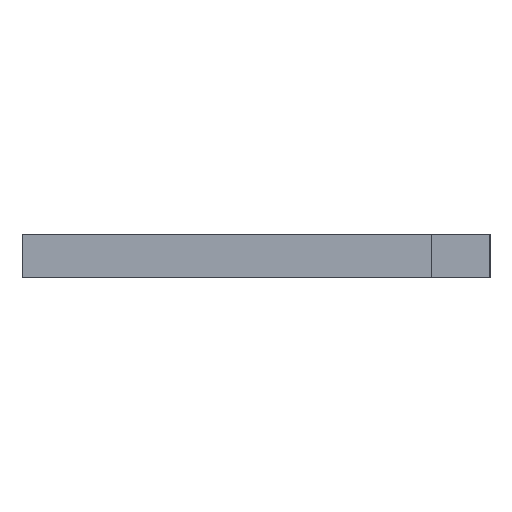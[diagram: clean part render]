
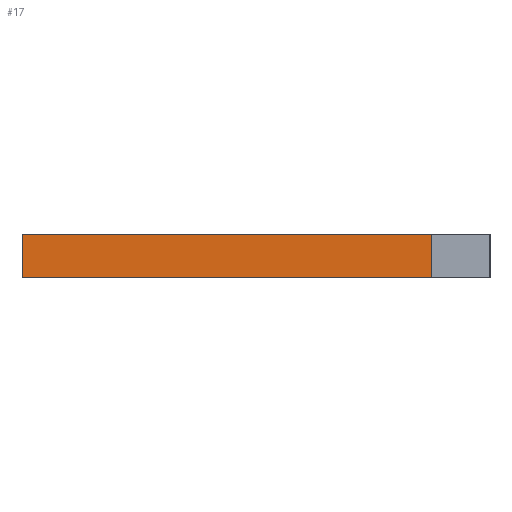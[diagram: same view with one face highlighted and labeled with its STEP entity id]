
A CAD part, left-side view. The second image highlights one B-rep face of the part: STEP entity #17.
In plain terms, the highlighted planar face has unit normal (-1, 0, 0).
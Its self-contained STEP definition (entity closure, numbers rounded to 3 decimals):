
#17 = ADVANCED_FACE('',(#18),#32,.F.);
#18 = FACE_BOUND('',#19,.F.);
#19 = EDGE_LOOP('',(#20,#55,#81,#109));
#20 = ORIENTED_EDGE('',*,*,#21,.F.);
#21 = EDGE_CURVE('',#22,#24,#26,.T.);
#22 = VERTEX_POINT('',#23);
#23 = CARTESIAN_POINT('',(0.,4.,3.));
#24 = VERTEX_POINT('',#25);
#25 = CARTESIAN_POINT('',(0.,32.,3.));
#26 = SURFACE_CURVE('',#27,(#31,#43),.PCURVE_S1.);
#27 = LINE('',#28,#29);
#28 = CARTESIAN_POINT('',(0.,0.,3.));
#29 = VECTOR('',#30,1.);
#30 = DIRECTION('',(-0.,1.,0.));
#31 = PCURVE('',#32,#37);
#32 = PLANE('',#33);
#33 = AXIS2_PLACEMENT_3D('',#34,#35,#36);
#34 = CARTESIAN_POINT('',(0.,0.,0.));
#35 = DIRECTION('',(1.,0.,-0.));
#36 = DIRECTION('',(0.,0.,1.));
#37 = DEFINITIONAL_REPRESENTATION('',(#38),#42);
#38 = LINE('',#39,#40);
#39 = CARTESIAN_POINT('',(3.,0.));
#40 = VECTOR('',#41,1.);
#41 = DIRECTION('',(0.,-1.));
#42 = ( GEOMETRIC_REPRESENTATION_CONTEXT(2)
PARAMETRIC_REPRESENTATION_CONTEXT() REPRESENTATION_CONTEXT('2D SPACE',''
  ) );
#43 = PCURVE('',#44,#49);
#44 = PLANE('',#45);
#45 = AXIS2_PLACEMENT_3D('',#46,#47,#48);
#46 = CARTESIAN_POINT('',(0.,0.,3.));
#47 = DIRECTION('',(0.,0.,1.));
#48 = DIRECTION('',(1.,0.,-0.));
#49 = DEFINITIONAL_REPRESENTATION('',(#50),#54);
#50 = LINE('',#51,#52);
#51 = CARTESIAN_POINT('',(0.,0.));
#52 = VECTOR('',#53,1.);
#53 = DIRECTION('',(0.,1.));
#54 = ( GEOMETRIC_REPRESENTATION_CONTEXT(2)
PARAMETRIC_REPRESENTATION_CONTEXT() REPRESENTATION_CONTEXT('2D SPACE',''
  ) );
#55 = ORIENTED_EDGE('',*,*,#56,.F.);
#56 = EDGE_CURVE('',#57,#22,#59,.T.);
#57 = VERTEX_POINT('',#58);
#58 = CARTESIAN_POINT('',(0.,4.,0.));
#59 = SURFACE_CURVE('',#60,(#64,#70),.PCURVE_S1.);
#60 = LINE('',#61,#62);
#61 = CARTESIAN_POINT('',(0.,4.,-0.5));
#62 = VECTOR('',#63,1.);
#63 = DIRECTION('',(0.,0.,1.));
#64 = PCURVE('',#32,#65);
#65 = DEFINITIONAL_REPRESENTATION('',(#66),#69);
#66 = B_SPLINE_CURVE_WITH_KNOTS('',1,(#67,#68),.UNSPECIFIED.,.F.,.F.,(2,
    2),(0.5,3.5),.PIECEWISE_BEZIER_KNOTS.);
#67 = CARTESIAN_POINT('',(0.,-4.));
#68 = CARTESIAN_POINT('',(3.,-4.));
#69 = ( GEOMETRIC_REPRESENTATION_CONTEXT(2)
PARAMETRIC_REPRESENTATION_CONTEXT() REPRESENTATION_CONTEXT('2D SPACE',''
  ) );
#70 = PCURVE('',#71,#76);
#71 = PLANE('',#72);
#72 = AXIS2_PLACEMENT_3D('',#73,#74,#75);
#73 = CARTESIAN_POINT('',(-1.,4.,-1.));
#74 = DIRECTION('',(-0.,1.,0.));
#75 = DIRECTION('',(0.,0.,1.));
#76 = DEFINITIONAL_REPRESENTATION('',(#77),#80);
#77 = B_SPLINE_CURVE_WITH_KNOTS('',1,(#78,#79),.UNSPECIFIED.,.F.,.F.,(2,
    2),(0.5,3.5),.PIECEWISE_BEZIER_KNOTS.);
#78 = CARTESIAN_POINT('',(1.,1.));
#79 = CARTESIAN_POINT('',(4.,1.));
#80 = ( GEOMETRIC_REPRESENTATION_CONTEXT(2)
PARAMETRIC_REPRESENTATION_CONTEXT() REPRESENTATION_CONTEXT('2D SPACE',''
  ) );
#81 = ORIENTED_EDGE('',*,*,#82,.T.);
#82 = EDGE_CURVE('',#57,#83,#85,.T.);
#83 = VERTEX_POINT('',#84);
#84 = CARTESIAN_POINT('',(0.,32.,0.));
#85 = SURFACE_CURVE('',#86,(#90,#97),.PCURVE_S1.);
#86 = LINE('',#87,#88);
#87 = CARTESIAN_POINT('',(0.,0.,0.));
#88 = VECTOR('',#89,1.);
#89 = DIRECTION('',(-0.,1.,0.));
#90 = PCURVE('',#32,#91);
#91 = DEFINITIONAL_REPRESENTATION('',(#92),#96);
#92 = LINE('',#93,#94);
#93 = CARTESIAN_POINT('',(0.,0.));
#94 = VECTOR('',#95,1.);
#95 = DIRECTION('',(0.,-1.));
#96 = ( GEOMETRIC_REPRESENTATION_CONTEXT(2)
PARAMETRIC_REPRESENTATION_CONTEXT() REPRESENTATION_CONTEXT('2D SPACE',''
  ) );
#97 = PCURVE('',#98,#103);
#98 = PLANE('',#99);
#99 = AXIS2_PLACEMENT_3D('',#100,#101,#102);
#100 = CARTESIAN_POINT('',(0.,0.,0.));
#101 = DIRECTION('',(0.,0.,1.));
#102 = DIRECTION('',(1.,0.,-0.));
#103 = DEFINITIONAL_REPRESENTATION('',(#104),#108);
#104 = LINE('',#105,#106);
#105 = CARTESIAN_POINT('',(0.,0.));
#106 = VECTOR('',#107,1.);
#107 = DIRECTION('',(0.,1.));
#108 = ( GEOMETRIC_REPRESENTATION_CONTEXT(2)
PARAMETRIC_REPRESENTATION_CONTEXT() REPRESENTATION_CONTEXT('2D SPACE',''
  ) );
#109 = ORIENTED_EDGE('',*,*,#110,.T.);
#110 = EDGE_CURVE('',#83,#24,#111,.T.);
#111 = SURFACE_CURVE('',#112,(#116,#123),.PCURVE_S1.);
#112 = LINE('',#113,#114);
#113 = CARTESIAN_POINT('',(0.,32.,0.));
#114 = VECTOR('',#115,1.);
#115 = DIRECTION('',(0.,0.,1.));
#116 = PCURVE('',#32,#117);
#117 = DEFINITIONAL_REPRESENTATION('',(#118),#122);
#118 = LINE('',#119,#120);
#119 = CARTESIAN_POINT('',(0.,-32.));
#120 = VECTOR('',#121,1.);
#121 = DIRECTION('',(1.,0.));
#122 = ( GEOMETRIC_REPRESENTATION_CONTEXT(2)
PARAMETRIC_REPRESENTATION_CONTEXT() REPRESENTATION_CONTEXT('2D SPACE',''
  ) );
#123 = PCURVE('',#124,#129);
#124 = PLANE('',#125);
#125 = AXIS2_PLACEMENT_3D('',#126,#127,#128);
#126 = CARTESIAN_POINT('',(0.,32.,0.));
#127 = DIRECTION('',(-0.,1.,0.));
#128 = DIRECTION('',(0.,0.,1.));
#129 = DEFINITIONAL_REPRESENTATION('',(#130),#134);
#130 = LINE('',#131,#132);
#131 = CARTESIAN_POINT('',(0.,0.));
#132 = VECTOR('',#133,1.);
#133 = DIRECTION('',(1.,0.));
#134 = ( GEOMETRIC_REPRESENTATION_CONTEXT(2)
PARAMETRIC_REPRESENTATION_CONTEXT() REPRESENTATION_CONTEXT('2D SPACE',''
  ) );
